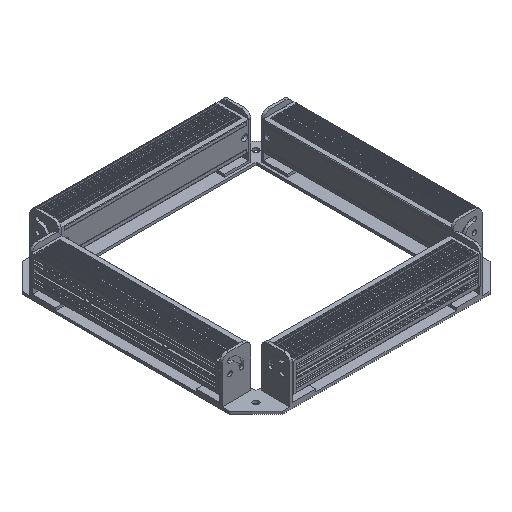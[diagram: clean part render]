
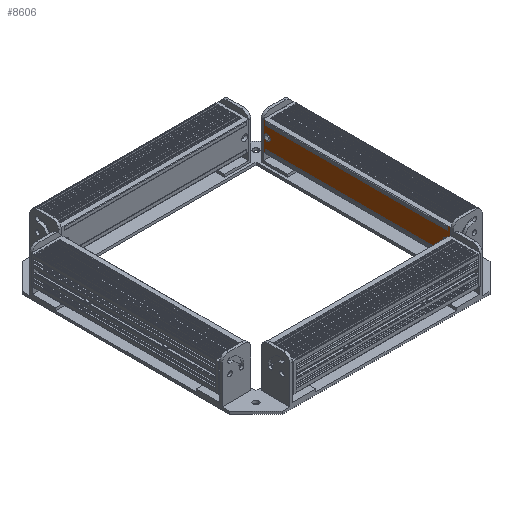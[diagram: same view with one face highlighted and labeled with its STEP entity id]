
A CAD part, isometric view. The second image highlights one B-rep face of the part: STEP entity #8606.
In plain terms, the highlighted planar face has unit normal (-1, 0, 0) as drawn and (0, 1, 0) by its records, which use the part's own axes.
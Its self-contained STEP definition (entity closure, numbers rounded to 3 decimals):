
#4651=DIRECTION('',(-1.,0.,0.));
#4652=VECTOR('',#4651,2.8);
#4653=CARTESIAN_POINT('',(-8.2,11.402,-70.));
#4654=LINE('',#4653,#4652);
#4655=DIRECTION('',(0.,0.,1.));
#4656=VECTOR('',#4655,2.);
#4657=CARTESIAN_POINT('',(11.,11.402,-72.));
#4658=LINE('',#4657,#4656);
#4659=DIRECTION('',(-1.,0.,0.));
#4660=VECTOR('',#4659,2.8);
#4661=CARTESIAN_POINT('',(11.,11.402,-70.));
#4662=LINE('',#4661,#4660);
#4663=DIRECTION('',(0.,0.,-1.));
#4664=VECTOR('',#4663,2.);
#4665=CARTESIAN_POINT('',(-11.,11.402,72.));
#4666=LINE('',#4665,#4664);
#4667=CARTESIAN_POINT('',(0.,11.402,-69.));
#4668=DIRECTION('',(0.,1.,0.));
#4669=DIRECTION('',(-1.,0.,0.));
#4670=AXIS2_PLACEMENT_3D('',#4667,#4668,#4669);
#4672=CARTESIAN_POINT('',(0.,11.402,-69.));
#4673=DIRECTION('',(0.,1.,0.));
#4674=DIRECTION('',(0.,0.,1.));
#4675=AXIS2_PLACEMENT_3D('',#4672,#4673,#4674);
#4677=CARTESIAN_POINT('',(0.,11.402,-69.));
#4678=DIRECTION('',(0.,1.,0.));
#4679=DIRECTION('',(1.,0.,0.));
#4680=AXIS2_PLACEMENT_3D('',#4677,#4678,#4679);
#4682=CARTESIAN_POINT('',(0.,11.402,-69.));
#4683=DIRECTION('',(0.,1.,0.));
#4684=DIRECTION('',(0.,0.,-1.));
#4685=AXIS2_PLACEMENT_3D('',#4682,#4683,#4684);
#4687=CARTESIAN_POINT('',(0.,11.402,69.));
#4688=DIRECTION('',(0.,1.,0.));
#4689=DIRECTION('',(0.,0.,1.));
#4690=AXIS2_PLACEMENT_3D('',#4687,#4688,#4689);
#4692=CARTESIAN_POINT('',(0.,11.402,69.));
#4693=DIRECTION('',(0.,1.,0.));
#4694=DIRECTION('',(0.,0.,-1.));
#4695=AXIS2_PLACEMENT_3D('',#4692,#4693,#4694);
#4697=DIRECTION('',(0.,0.,1.));
#4698=VECTOR('',#4697,140.);
#4699=CARTESIAN_POINT('',(-8.2,11.402,-70.));
#4700=LINE('',#4699,#4698);
#4731=DIRECTION('',(-1.,0.,0.));
#4732=VECTOR('',#4731,2.8);
#4733=CARTESIAN_POINT('',(-8.2,11.402,70.));
#4734=LINE('',#4733,#4732);
#4739=DIRECTION('',(0.,0.,1.));
#4740=VECTOR('',#4739,2.);
#4741=CARTESIAN_POINT('',(-11.,11.402,-72.));
#4742=LINE('',#4741,#4740);
#5145=DIRECTION('',(1.,0.,0.));
#5146=VECTOR('',#5145,22.);
#5147=CARTESIAN_POINT('',(-11.,11.402,72.));
#5148=LINE('',#5147,#5146);
#5217=DIRECTION('',(0.,0.,-1.));
#5218=VECTOR('',#5217,2.);
#5219=CARTESIAN_POINT('',(11.,11.402,72.));
#5220=LINE('',#5219,#5218);
#5327=DIRECTION('',(-1.,0.,0.));
#5328=VECTOR('',#5327,2.8);
#5329=CARTESIAN_POINT('',(11.,11.402,70.));
#5330=LINE('',#5329,#5328);
#5357=DIRECTION('',(0.,0.,-1.));
#5358=VECTOR('',#5357,140.);
#5359=CARTESIAN_POINT('',(8.2,11.402,70.));
#5360=LINE('',#5359,#5358);
#5377=DIRECTION('',(-1.,0.,0.));
#5378=VECTOR('',#5377,22.);
#5379=CARTESIAN_POINT('',(11.,11.402,-72.));
#5380=LINE('',#5379,#5378);
#7633=CARTESIAN_POINT('',(-8.2,11.402,-70.));
#7634=CARTESIAN_POINT('',(-11.,11.402,-70.));
#7635=VERTEX_POINT('',#7633);
#7636=VERTEX_POINT('',#7634);
#7647=CARTESIAN_POINT('',(11.,11.402,-70.));
#7648=CARTESIAN_POINT('',(8.2,11.402,-70.));
#7649=VERTEX_POINT('',#7647);
#7650=VERTEX_POINT('',#7648);
#7661=CARTESIAN_POINT('',(-8.2,11.402,70.));
#7662=VERTEX_POINT('',#7661);
#7663=CARTESIAN_POINT('',(-11.,11.402,-72.));
#7664=VERTEX_POINT('',#7663);
#7665=CARTESIAN_POINT('',(11.,11.402,-72.));
#7666=VERTEX_POINT('',#7665);
#7667=CARTESIAN_POINT('',(8.2,11.402,70.));
#7668=VERTEX_POINT('',#7667);
#7669=CARTESIAN_POINT('',(11.,11.402,70.));
#7670=VERTEX_POINT('',#7669);
#7671=CARTESIAN_POINT('',(11.,11.402,72.));
#7672=VERTEX_POINT('',#7671);
#7673=CARTESIAN_POINT('',(-11.,11.402,72.));
#7674=VERTEX_POINT('',#7673);
#7675=CARTESIAN_POINT('',(-11.,11.402,70.));
#7676=VERTEX_POINT('',#7675);
#7677=CARTESIAN_POINT('',(0.,11.402,-66.6));
#7678=CARTESIAN_POINT('',(2.4,11.402,-69.));
#7679=VERTEX_POINT('',#7677);
#7680=VERTEX_POINT('',#7678);
#7681=CARTESIAN_POINT('',(-2.4,11.402,-69.));
#7682=VERTEX_POINT('',#7681);
#7683=CARTESIAN_POINT('',(0.,11.402,-71.4));
#7684=VERTEX_POINT('',#7683);
#7685=CARTESIAN_POINT('',(0.,11.402,71.4));
#7686=CARTESIAN_POINT('',(0.,11.402,66.6));
#7687=VERTEX_POINT('',#7685);
#7688=VERTEX_POINT('',#7686);
#8560=CARTESIAN_POINT('',(8.2,11.402,-70.));
#8561=DIRECTION('',(0.,1.,0.));
#8562=DIRECTION('',(-1.,0.,0.));
#8563=AXIS2_PLACEMENT_3D('',#8560,#8561,#8562);
#8564=PLANE('',#8563);
#8566=ORIENTED_EDGE('',*,*,#8565,.F.);
#8567=ORIENTED_EDGE('',*,*,#8543,.T.);
#8569=ORIENTED_EDGE('',*,*,#8568,.F.);
#8571=ORIENTED_EDGE('',*,*,#8570,.F.);
#8573=ORIENTED_EDGE('',*,*,#8572,.T.);
#8575=ORIENTED_EDGE('',*,*,#8574,.T.);
#8577=ORIENTED_EDGE('',*,*,#8576,.F.);
#8579=ORIENTED_EDGE('',*,*,#8578,.F.);
#8581=ORIENTED_EDGE('',*,*,#8580,.F.);
#8583=ORIENTED_EDGE('',*,*,#8582,.F.);
#8585=ORIENTED_EDGE('',*,*,#8584,.T.);
#8587=ORIENTED_EDGE('',*,*,#8586,.F.);
#8588=EDGE_LOOP('',(#8566,#8567,#8569,#8571,#8573,#8575,#8577,#8579,#8581,#8583,
#8585,#8587));
#8589=FACE_OUTER_BOUND('',#8588,.F.);
#8591=ORIENTED_EDGE('',*,*,#8590,.T.);
#8593=ORIENTED_EDGE('',*,*,#8592,.T.);
#8595=ORIENTED_EDGE('',*,*,#8594,.T.);
#8597=ORIENTED_EDGE('',*,*,#8596,.T.);
#8598=EDGE_LOOP('',(#8591,#8593,#8595,#8597));
#8599=FACE_BOUND('',#8598,.F.);
#8601=ORIENTED_EDGE('',*,*,#8600,.T.);
#8603=ORIENTED_EDGE('',*,*,#8602,.T.);
#8604=EDGE_LOOP('',(#8601,#8603));
#8605=FACE_BOUND('',#8604,.F.);
#4671=CIRCLE('',#4670,2.4);
#4676=CIRCLE('',#4675,2.4);
#4681=CIRCLE('',#4680,2.4);
#4686=CIRCLE('',#4685,2.4);
#4691=CIRCLE('',#4690,2.4);
#4696=CIRCLE('',#4695,2.4);
#8543=EDGE_CURVE('',#7635,#7636,#4654,.T.);
#8565=EDGE_CURVE('',#7635,#7662,#4700,.T.);
#8568=EDGE_CURVE('',#7664,#7636,#4742,.T.);
#8570=EDGE_CURVE('',#7666,#7664,#5380,.T.);
#8572=EDGE_CURVE('',#7666,#7649,#4658,.T.);
#8574=EDGE_CURVE('',#7649,#7650,#4662,.T.);
#8576=EDGE_CURVE('',#7668,#7650,#5360,.T.);
#8578=EDGE_CURVE('',#7670,#7668,#5330,.T.);
#8580=EDGE_CURVE('',#7672,#7670,#5220,.T.);
#8582=EDGE_CURVE('',#7674,#7672,#5148,.T.);
#8584=EDGE_CURVE('',#7674,#7676,#4666,.T.);
#8586=EDGE_CURVE('',#7662,#7676,#4734,.T.);
#8590=EDGE_CURVE('',#7682,#7679,#4671,.T.);
#8592=EDGE_CURVE('',#7679,#7680,#4676,.T.);
#8594=EDGE_CURVE('',#7680,#7684,#4681,.T.);
#8596=EDGE_CURVE('',#7684,#7682,#4686,.T.);
#8600=EDGE_CURVE('',#7687,#7688,#4691,.T.);
#8602=EDGE_CURVE('',#7688,#7687,#4696,.T.);
#8606=ADVANCED_FACE('',(#8589,#8599,#8605),#8564,.T.);
